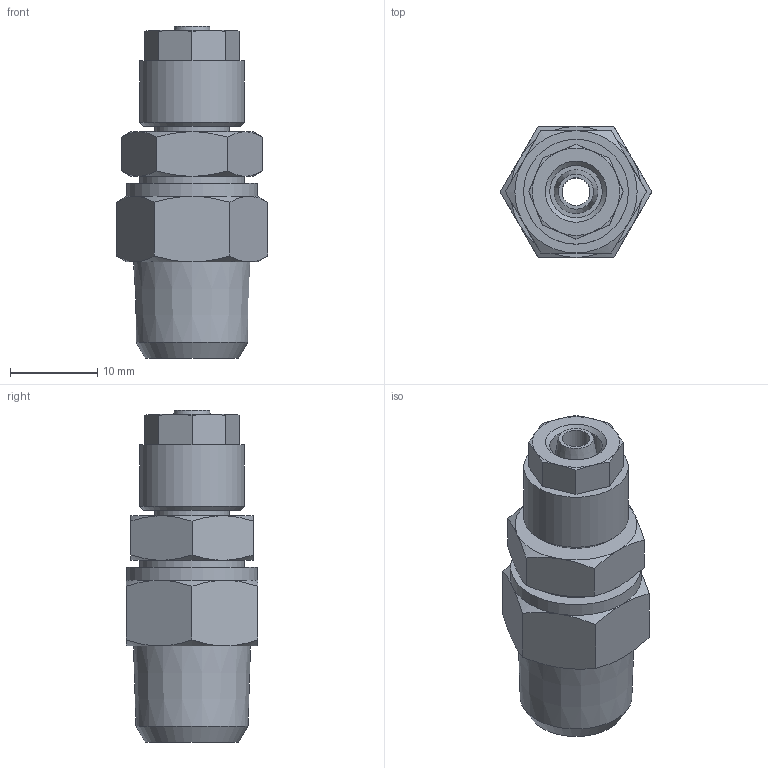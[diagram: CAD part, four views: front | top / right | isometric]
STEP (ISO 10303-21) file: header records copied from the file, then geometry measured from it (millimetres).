
FILE_DESCRIPTION(/* description */ (''),/* implementation_level */ '2;1');
FILE_NAME(/* name */ '10102_301DK_6-4_R14_20.07.16',/* time_stamp */ '2016-07-20T08:25:10+02:00',/* author */ (''),/* organization */ (''),/* preprocessor_version */ 'ST-DEVELOPER v16.5',/* originating_system */ 'HiCAD 2016 2101.0 Build 254',/* authorisation */ '');
FILE_SCHEMA (('AUTOMOTIVE_DESIGN { 1 0 10303 214 1 1 1 1 }'));
Length unit declared in the file: millimetre
Products named in the file (4): Root; 17005; 10102_Anschluss; 10102_Gewinde
Assembly tree (3 placements, depth 2):
  Root
    17005
    10102_Anschluss
    10102_Gewinde
Bounding box: 17.32 x 15 x 38 mm (x, y, z)
Volume: 4304.1 mm3; surface area: 3889.5 mm2
Topology: 3 solids, 3 shells, 87 faces, 186 edges, 113 vertices
Faces by surface type: cone 42, plane 33, cylinder 11, torus 1
Full cylindrical faces by diameter (mm): 3.2 x1, 4.7 x1, 6 x1, 8 x1, 8.5 x1, 8.773 x1, 10 x1, 12 x2, 12.2 x1, 15 x1
Entity records: 3854 total; most frequent: DIRECTION 470, CARTESIAN_POINT 354, PRESENTATION_STYLE_ASSIGNMENT 315, COLOUR_RGB 313, DRAUGHTING_PRE_DEFINED_CURVE_FONT 312, CURVE_STYLE 312, OVER_RIDING_STYLED_ITEM 312, ORIENTED_EDGE 312
